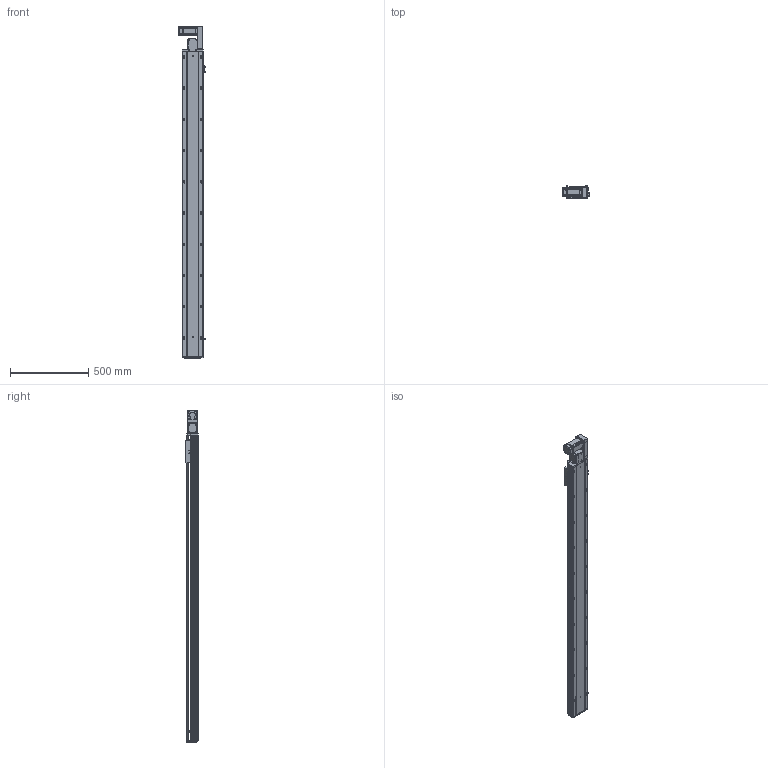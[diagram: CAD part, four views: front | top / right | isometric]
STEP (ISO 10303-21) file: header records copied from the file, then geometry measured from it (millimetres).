
FILE_DESCRIPTION (( 'STEP AP203' ), '1' );
FILE_NAME ('RY140-T-300-RK.SLDASM_1700.step', '2021-03-01T06:46:49', ( '盈信电脑' ), ( '东莞市道滘镇水果街19号' ), 'SwSTEP 2.0', 'SolidWorks 2012', '' );
FILE_SCHEMA (( 'CONFIG_CONTROL_DESIGN' ));
Products named in the file (17): 15; RY140-T-300-RK.SLDASM_1700; RY120-T主同步轮轴承压盖; RY120-T蹟翐M4; RY140-T萇儂假蚾啣; RY140-T萇儂欶; RY140-T翋肮謫裔啣; 滅袉蝶18-10; RY120-T肮祭湍揤踡輸1; RY120外置感应片(140共用）; RY120-T肮祭湍揤踡輸2; RY140-T翋肮祭謫盓傅釱; RY140綴裔啣; 覜茼ん672; RY140-T-300-DR倰第奻裔啣_1700; RY140肮祭謫臏賑輸; RY140-T-300-DR倰第菁釱_1700
Assembly tree (22 placements, depth 2):
  RY140-T-300-RK.SLDASM_1700
    RY140-T-300-DR倰第菁釱_1700
    RY140肮祭謫臏賑輸
    RY140-T-300-DR倰第奻裔啣_1700
    RY140綴裔啣
    覜茼ん672  x3
    RY120外置感应片(140共用）
    RY120-T肮祭湍揤踡輸2
    RY120-T肮祭湍揤踡輸1
    RY140-T翋肮祭謫盓傅釱
    滅袉蝶18-10  x2
    RY140-T翋肮謫裔啣
    RY140-T萇儂欶
    RY140-T萇儂假蚾啣
    RY120-T蹟翐M4  x4
    15
    RY120-T主同步轮轴承压盖
Bounding box: 170.7 x 78 x 2126.5 mm (x, y, z)
Volume: 5671616.8 mm3; surface area: 2207896.7 mm2
Topology: 22 solids, 22 shells, 2815 faces, 7717 edges, 4918 vertices
Faces by surface type: plane 1381, cylinder 1064, cone 270, bspline 100
Entity records: 88802 total; most frequent: CARTESIAN_POINT 21577, ORIENTED_EDGE 13818, DIRECTION 13209, EDGE_CURVE 6909, VERTEX_POINT 4517, AXIS2_PLACEMENT_3D 4426, LINE 4357, VECTOR 4357
